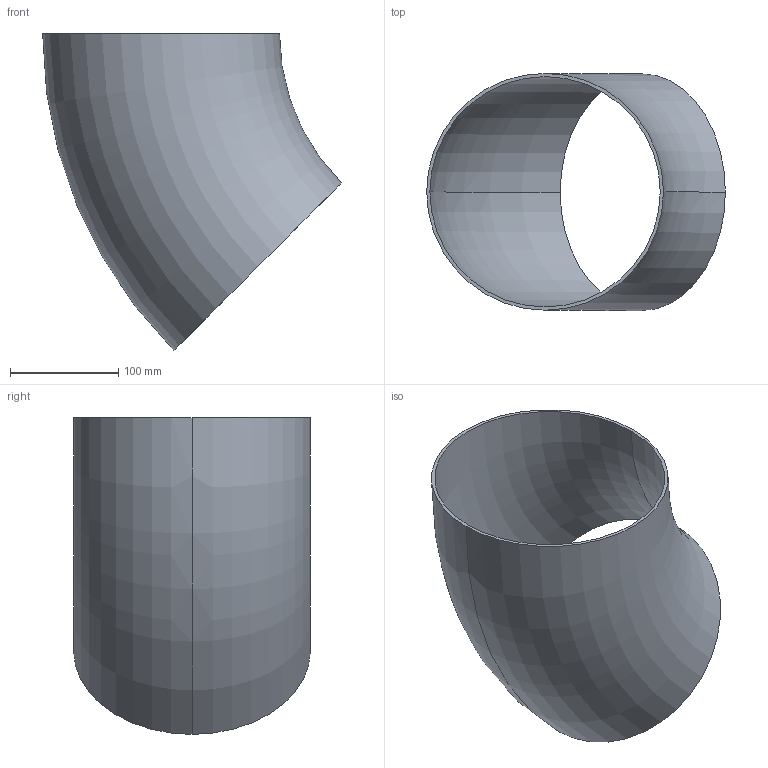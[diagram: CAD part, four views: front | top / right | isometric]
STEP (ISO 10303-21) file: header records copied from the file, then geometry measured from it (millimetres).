
FILE_DESCRIPTION (( 'STEP AP203' ), '1' );
FILE_NAME ('3D_R1650_219.1x3_17351860.STEP', '2024-08-03T09:19:08', ( '' ), ( '' ), 'SwSTEP 2.0', 'SolidWorks 2024', '' );
FILE_SCHEMA (( 'CONFIG_CONTROL_DESIGN' ));
Length unit declared in the file: millimetre
Products named in the file (1): 3D_R1650_219.1x3_17351860
Bounding box: 276.35 x 219.1 x 293.13 mm (x, y, z)
Volume: 487882.9 mm3; surface area: 329328.7 mm2
Topology: 1 solids, 1 shells, 6 faces, 12 edges, 8 vertices
Faces by surface type: torus 4, plane 2
Entity records: 249 total; most frequent: DIRECTION 38, CARTESIAN_POINT 27, ORIENTED_EDGE 24, AXIS2_PLACEMENT_3D 19, CIRCLE 12, EDGE_CURVE 12, EDGE_LOOP 8, PERSON_AND_ORGANIZATION 8
